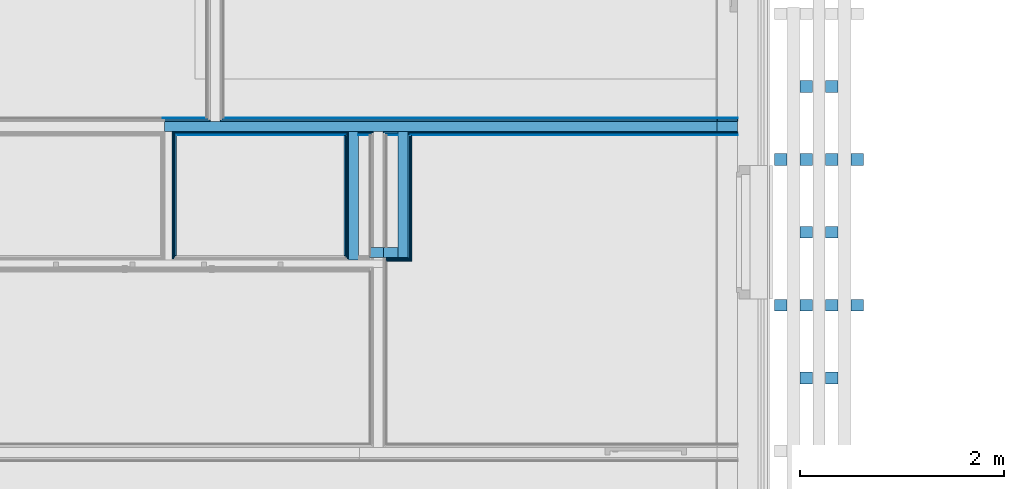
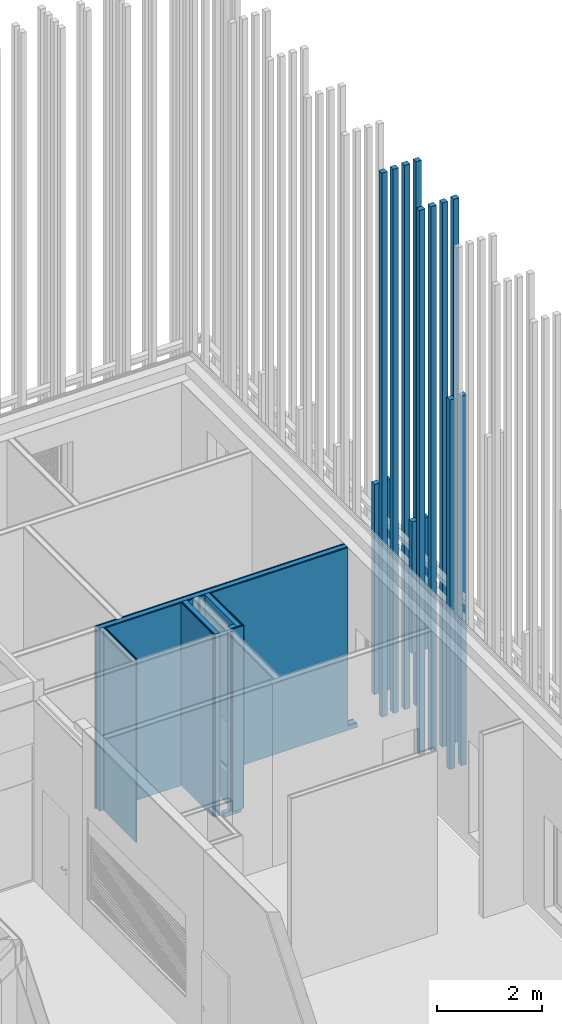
# One storey, part 192 of 260: 22 building element parts, 5 discrete accessories, 1 opening, 5 elements without a shape of their own.
"""IFC2X3 building model written with IfcOpenShell, lengths in millimetres."""

from ifc_helpers import new_model, entity, si_unit, converted_unit, derived_unit, money_unit, direction, frame, origin_with_axes, place, context, subcontext, project, spatial, faceted_brep, material, material_list, type_object, element, aggregate, save


model = new_model("IFC2X3")

# Units and contexts
model_context = context("Model", 3, precision=0.01, world=origin_with_axes(), true_north=direction((0.0, 1.0)))
body_context = subcontext(model_context, "Body", "Model", "MODEL_VIEW")
ifc_project = project(units=[si_unit("LENGTHUNIT", "METRE", prefix="MILLI"), si_unit("AREAUNIT", "SQUARE_METRE"), si_unit("VOLUMEUNIT", "CUBIC_METRE"), converted_unit("PLANEANGLEUNIT", "DEGREE", entity("IfcPlaneAngleMeasure", 0.0174532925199), si_unit("PLANEANGLEUNIT", "RADIAN"), dimensions=[0, 0, 0, 0, 0, 0, 0]), money_unit("EUR"), converted_unit("TIMEUNIT", "Year", entity("IfcTimeMeasure", 31556926.0), si_unit("TIMEUNIT", "SECOND"), dimensions=[0, 0, 1, 0, 0, 0, 0]), si_unit("MASSUNIT", "GRAM", prefix="KILO"), si_unit("THERMODYNAMICTEMPERATUREUNIT", "DEGREE_CELSIUS"), si_unit("LUMINOUSINTENSITYUNIT", "LUMEN"), si_unit("ENERGYUNIT", "JOULE", prefix="MEGA"), derived_unit("THERMALCONDUCTANCEUNIT", [(si_unit("POWERUNIT", "WATT"), 1), (si_unit("LENGTHUNIT", "METRE"), -1), (si_unit("THERMODYNAMICTEMPERATUREUNIT", "KELVIN"), -1)]), derived_unit("SPECIFICHEATCAPACITYUNIT", [(si_unit("ENERGYUNIT", "JOULE"), 1), (si_unit("MASSUNIT", "GRAM", prefix="KILO"), -1), (si_unit("THERMODYNAMICTEMPERATUREUNIT", "KELVIN"), -1)]), derived_unit("MASSDENSITYUNIT", [(si_unit("MASSUNIT", "GRAM", prefix="KILO"), 1), (si_unit("VOLUMEUNIT", "CUBIC_METRE"), -1)])], contexts=[model_context])

# Site, building, storey
site_placement = place(None, origin_with_axes())
site = spatial("IfcSite", under=ifc_project, at=site_placement, Name="Kolde pst 67a", CompositionType="ELEMENT")
building_placement = place(site_placement, origin_with_axes())
building = spatial("IfcBuilding", under=site, at=building_placement, Name="Riigigümnaasium", CompositionType="ELEMENT")
storey_placement = place(building_placement, origin_with_axes())
storey = spatial("IfcBuildingStorey", under=building, at=storey_placement, Name="1. korrus", CompositionType="ELEMENT", Elevation=0.0)

# Discrete accessories
ifc_material_1 = material(Name="_VÄLISVIIMISTLUS - sõrmjätkatud puitprussid 120x115mm, liitekohad vähemärgatavad, Platowood sõrmjätkatud kuusk või samaväärne; eeltöödeldud tuletõkkevõõbaga, tuletundlikkus B-s1, d0, Woodsafe Exterior WFX™ või samaväärne; kinnitused vastavalt EK osale")
ifc_material_list_1 = material_list([ifc_material_1, ifc_material_1, ifc_material_1, ifc_material_1])
discrete_accessory_type_1 = type_object("IfcDiscreteAccessoryType", Name="120 4-ne vertikaalne 870 x 115")
for number, where, z_axis, x_axis in (
    (1, (60791.9943499, 53667.4998416, 280.0), (0.0, 0.0, 1.0), (-0.999999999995, -3.13999128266e-06, 0.0)),
    (2, (60791.9943499, 52237.4998416, 280.0), (0.0, 0.0, 1.0), (-0.999999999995, -3.13999128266e-06, 0.0)),
):
    element("IfcDiscreteAccessory", number, at=place(storey_placement, frame(where, z_axis=z_axis, x_axis=x_axis)), inside=storey, type_object=discrete_accessory_type_1, material=ifc_material_list_1, Name="Päikesevarjestus", context=body_context, shape_type="Brep", body=[
        faceted_brep([(-133.0, -70.0, 0.0), (-13.0, -70.0, 0.0), (-13.0, -70.0, 12600.0), (-133.0, -70.0, 12600.0), (-133.0, 45.0, 0.0), (-13.0, 45.0, 0.0), (-13.0, 45.0, 12600.0), (-133.0, 45.0, 12600.0)], [[[0, 1, 2, 3]], [[0, 4, 5, 1]], [[1, 5, 6, 2]], [[3, 2, 6, 7]], [[4, 0, 3, 7]], [[5, 4, 7, 6]]]),
        faceted_brep([(-383.0, -70.0, 0.0), (-263.0, -70.0, 0.0), (-263.0, -70.0, 12600.0), (-383.0, -70.0, 12600.0), (-383.0, 45.0, 0.0), (-263.0, 45.0, 0.0), (-263.0, 45.0, 12600.0), (-383.0, 45.0, 12600.0)], [[[0, 1, 2, 3]], [[0, 4, 5, 1]], [[1, 5, 6, 2]], [[3, 2, 6, 7]], [[4, 0, 3, 7]], [[5, 4, 7, 6]]]),
        faceted_brep([(-633.0, -70.0, 0.0), (-513.0, -70.0, 0.0), (-513.0, -70.0, 12600.0), (-633.0, -70.0, 12600.0), (-633.0, 45.0, 0.0), (-513.0, 45.0, 0.0), (-513.0, 45.0, 12600.0), (-633.0, 45.0, 12600.0)], [[[0, 1, 2, 3]], [[0, 4, 5, 1]], [[1, 5, 6, 2]], [[3, 2, 6, 7]], [[4, 0, 3, 7]], [[5, 4, 7, 6]]]),
        faceted_brep([(-883.0, -70.0, 0.0), (-763.0, -70.0, 0.0), (-763.0, -70.0, 12600.0), (-883.0, -70.0, 12600.0), (-883.0, 45.0, 0.0), (-763.0, 45.0, 0.0), (-763.0, 45.0, 12600.0), (-883.0, 45.0, 12600.0)], [[[0, 1, 2, 3]], [[0, 4, 5, 1]], [[1, 5, 6, 2]], [[3, 2, 6, 7]], [[4, 0, 3, 7]], [[5, 4, 7, 6]]]),
    ])
ifc_material_list_2 = material_list([ifc_material_1, ifc_material_1])
discrete_accessory_type_2 = type_object("IfcDiscreteAccessoryType", Name="1+paiksekaitse 3 370 x 115")
discrete_accessory_1_placement = place(storey_placement, frame((61771.9937454, 51595.0013897, 280.0), z_axis=(0.0, 0.0, 1.0), x_axis=(-1.0, 0.0, 0.0)))
element("IfcDiscreteAccessory", 3, at=discrete_accessory_1_placement, inside=storey, type_object=discrete_accessory_type_2, material=ifc_material_list_2, Name="Päikesevarjestus", context=body_context, shape_type="Brep", body=[
    faceted_brep([(467.0, 117.5, 0.0), (347.0, 117.5, 0.0), (347.0, 117.5, 8560.0), (467.0, 117.5, 8560.0), (467.0, 2.5, 0.0), (347.0, 2.5, 0.0), (347.0, 2.5, 8560.0), (467.0, 2.5, 8560.0)], [[[0, 1, 2, 3]], [[0, 4, 5, 1]], [[1, 5, 6, 2]], [[3, 2, 6, 7]], [[4, 0, 3, 7]], [[5, 4, 7, 6]]]),
    faceted_brep([(717.0, 117.5, 0.0), (597.0, 117.5, 0.0), (597.0, 117.5, 8560.0), (717.0, 117.5, 8560.0), (717.0, 2.5, 0.0), (597.0, 2.5, 0.0), (597.0, 2.5, 8560.0), (717.0, 2.5, 8560.0)], [[[0, 1, 2, 3]], [[0, 4, 5, 1]], [[1, 5, 6, 2]], [[3, 2, 6, 7]], [[4, 0, 3, 7]], [[5, 4, 7, 6]]]),
])
discrete_accessory_2_placement = place(storey_placement, frame((61771.9937454, 53025.0013897, 2100.00014213), z_axis=(0.0, 0.0, 1.0), x_axis=(-1.0, 0.0, 0.0)))
element("IfcDiscreteAccessory", 4, at=discrete_accessory_2_placement, inside=storey, type_object=discrete_accessory_type_2, material=ifc_material_list_2, Name="Päikesevarjestus", context=body_context, shape_type="Brep", body=[
    faceted_brep([(467.0, 117.5, 0.0), (347.0, 117.5, 0.0), (347.0, 117.5, 3050.0), (467.0, 117.5, 3050.0), (467.0, 2.5, 0.0), (347.0, 2.5, 0.0), (347.0, 2.5, 3050.0), (467.0, 2.5, 3050.0)], [[[0, 1, 2, 3]], [[0, 4, 5, 1]], [[1, 5, 6, 2]], [[3, 2, 6, 7]], [[4, 0, 3, 7]], [[5, 4, 7, 6]]]),
    faceted_brep([(717.0, 117.5, 0.0), (597.0, 117.5, 0.0), (597.0, 117.5, 3050.0), (717.0, 117.5, 3050.0), (717.0, 2.5, 0.0), (597.0, 2.5, 0.0), (597.0, 2.5, 3050.0), (717.0, 2.5, 3050.0)], [[[0, 1, 2, 3]], [[0, 4, 5, 1]], [[1, 5, 6, 2]], [[3, 2, 6, 7]], [[4, 0, 3, 7]], [[5, 4, 7, 6]]]),
])
discrete_accessory_3_placement = place(storey_placement, frame((61771.9937454, 54455.0013897, 280.0), z_axis=(0.0, 0.0, 1.0), x_axis=(-1.0, 0.0, 0.0)))
element("IfcDiscreteAccessory", 5, at=discrete_accessory_3_placement, inside=storey, type_object=discrete_accessory_type_2, material=ifc_material_list_2, Name="Päikesevarjestus", context=body_context, shape_type="Brep", body=[
    faceted_brep([(467.0, 117.5, 0.0), (347.0, 117.5, 0.0), (347.0, 117.5, 4870.00014213), (467.0, 117.5, 4870.00014213), (467.0, 2.5, 0.0), (347.0, 2.5, 0.0), (347.0, 2.5, 4870.00014213), (467.0, 2.5, 4870.00014213)], [[[0, 1, 2, 3]], [[0, 4, 5, 1]], [[1, 5, 6, 2]], [[3, 2, 6, 7]], [[4, 0, 3, 7]], [[5, 4, 7, 6]]]),
    faceted_brep([(717.0, 117.5, 0.0), (597.0, 117.5, 0.0), (597.0, 117.5, 4870.00014213), (717.0, 117.5, 4870.00014213), (717.0, 2.5, 0.0), (597.0, 2.5, 0.0), (597.0, 2.5, 4870.00014213), (717.0, 2.5, 4870.00014213)], [[[0, 1, 2, 3]], [[0, 4, 5, 1]], [[1, 5, 6, 2]], [[3, 2, 6, 7]], [[4, 0, 3, 7]], [[5, 4, 7, 6]]]),
])

# Wall, building element parts
wall_type_1 = type_object("IfcWallType", Name="SS-MK-7,5/1_plaaditud 155", PredefinedType="NOTDEFINED")
wall_1_placement = place(storey_placement, frame((54779.9939316, 53918.5000583, 0.0), z_axis=(0.0, 0.0, 1.0), x_axis=(0.0, -1.0, 0.0)))
wall_1 = element("IfcWall", 6, at=wall_1_placement, inside=storey, type_object=wall_type_1, Name="Sisesein")
ifc_material_2 = material(Name="_VIIMISTLUSKIHT - viimistlus vastavalt SA osale")
building_element_part_1_placement = place(wall_1_placement, origin_with_axes())
building_element_part_1 = element("IfcBuildingElementPart", 7, at=building_element_part_1_placement, material=ifc_material_2, Name="_VIIMISTLUSKIHT - viimistlus vastavalt SA osale", context=body_context, shape_type="Brep", body=[
    faceted_brep([(1183.49987397, 140.000000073, 4230.0), (0.0, 140.000000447, 4230.0), (-5.0, 140.000000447, 4230.0), (-4.99999997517, 140.0, 0.0), (1183.49987397, 140.0, 0.0), (1183.49987397, 155.000000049, 4230.0), (0.0, 155.000000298, 4230.0), (-5.0, 155.000000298, 4230.0), (-4.99999997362, 155.0, 0.0), (1183.49987397, 155.0, 0.0)], [[[0, 1, 2, 3, 4]], [[5, 6, 7, 2, 1, 0]], [[3, 2, 7, 8]], [[4, 3, 8, 9]], [[5, 0, 4, 9]], [[6, 5, 9, 8, 7]]]),
])
ifc_material_3 = material(Name="_PLAATMATERJAL - kipsplaat veekindel")
building_element_part_2_placement = place(wall_1_placement, origin_with_axes())
building_element_part_2 = element("IfcBuildingElementPart", 8, at=building_element_part_2_placement, material=ifc_material_3, Name="_PLAATMATERJAL - kipsplaat veekindel", context=body_context, shape_type="Brep", body=[
    faceted_brep([(1198.49987397, 127.5, 4230.0), (0.0, 127.5, 4230.0), (-5.0, 127.5, 4230.0), (-4.99999997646, 127.5, 0.0), (1198.49987397, 127.5, 0.0), (1198.49987397, 140.000000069, 4230.0), (0.0, 140.000000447, 4230.0), (-5.0, 140.000000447, 4230.0), (-4.99999997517, 140.0, 0.0), (1198.49987397, 140.0, 0.0)], [[[0, 1, 2, 3, 4]], [[5, 6, 7, 2, 1, 0]], [[3, 2, 7, 8]], [[4, 3, 8, 9]], [[5, 0, 4, 9]], [[6, 5, 9, 8, 7]]]),
])
building_element_part_3_placement = place(wall_1_placement, origin_with_axes())
building_element_part_3 = element("IfcBuildingElementPart", 9, at=building_element_part_3_placement, material=ifc_material_3, Name="_PLAATMATERJAL - kipsplaat veekindel", context=body_context, shape_type="Brep", body=[
    faceted_brep([(1210.99987397, 115.000000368, 4230.0), (0.0, 115.000002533, 4230.0), (-5.0, 115.000002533, 4230.0), (-4.99999997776, 115.0, 0.0), (1210.99987397, 115.0, 0.0), (1210.99987397, 127.5, 4230.0), (0.0, 127.5, 4230.0), (-5.0, 127.5, 4230.0), (-4.99999997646, 127.5, 0.0), (1210.99987397, 127.5, 0.0)], [[[0, 1, 2, 3, 4]], [[5, 6, 7, 2, 1, 0]], [[3, 2, 7, 8]], [[4, 3, 8, 9]], [[5, 0, 4, 9]], [[6, 5, 9, 8, 7]]]),
])
aggregate(wall_1, [building_element_part_1, building_element_part_2, building_element_part_3])

wall_type_2 = type_object("IfcWallType", Name="SS-MK-10/2_šahti sein+plaat 140", PredefinedType="NOTDEFINED")
wall_2_placement = place(storey_placement, frame((56581.4435911, 52735.0001843, 0.0), z_axis=(0.0, 0.0, 1.0), x_axis=(0.0, 1.0, 0.0)))
wall_2 = element("IfcWall", 10, at=wall_2_placement, inside=storey, type_object=wall_type_2, Name="Varisein")
building_element_part_4_placement = place(wall_2_placement, origin_with_axes())
building_element_part_4 = element("IfcBuildingElementPart", 11, at=building_element_part_4_placement, material=ifc_material_2, Name="_VIIMISTLUSKIHT - viimistlus vastavalt SA osale", context=body_context, shape_type="Brep", body=[
    faceted_brep([(1183.49987397, 4.47037962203e-07, 4230.0), (1183.49987397, -14.9999994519, 4230.0), (1183.49987397, -15.0, 0.0), (1183.49987397, 0.0, 0.0), (0.0, -14.9999999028, 4230.0), (0.0, 7.28732629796e-08, 4230.0), (0.0, -15.0, 0.0), (0.0, 0.0, 0.0)], [[[0, 1, 2, 3]], [[4, 1, 0, 5]], [[1, 4, 6, 2]], [[7, 3, 2, 6]], [[5, 0, 3, 7]], [[4, 5, 7, 6]]]),
])
building_element_part_5_placement = place(wall_2_placement, origin_with_axes())
building_element_part_5 = element("IfcBuildingElementPart", 12, at=building_element_part_5_placement, material=ifc_material_3, Name="_PLAATMATERJAL - kipsplaat veekindel", context=body_context, shape_type="Brep", body=[
    faceted_brep([(-15.0, -14.9999999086, 4230.0), (1183.49987397, -14.999999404, 4230.0), (1188.49987397, -14.999999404, 4230.0), (1188.49987377, -15.0, 0.0), (-15.0, -15.0, 0.0), (-15.0, -27.5, 4230.0), (1183.49987397, -27.5, 4230.0), (1188.49987397, -27.5, 4230.0), (1188.49987377, -27.5, 0.0), (-15.0, -27.5, 0.0)], [[[0, 1, 2, 3, 4]], [[5, 6, 7, 2, 1, 0]], [[3, 2, 7, 8]], [[4, 3, 8, 9]], [[5, 0, 4, 9]], [[6, 5, 9, 8, 7]]]),
])
building_element_part_6_placement = place(wall_2_placement, origin_with_axes())
building_element_part_6 = element("IfcBuildingElementPart", 13, at=building_element_part_6_placement, material=ifc_material_3, Name="_PLAATMATERJAL - kipsplaat veekindel", context=body_context, shape_type="Brep", body=[
    faceted_brep([(-27.5, -27.5, 4230.0), (1183.49987397, -27.5, 4230.0), (1188.49987397, -27.5, 4230.0), (1188.49987377, -27.5, 0.0), (-27.5, -27.5, 0.0), (-27.5, -39.9999996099, 4230.0), (1183.49987397, -39.9999973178, 4230.0), (1188.49987397, -39.9999973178, 4230.0), (1188.49987377, -40.0, 0.0), (-27.5, -40.0, 0.0)], [[[0, 1, 2, 3, 4]], [[5, 6, 7, 2, 1, 0]], [[3, 2, 7, 8]], [[4, 3, 8, 9]], [[5, 0, 4, 9]], [[6, 5, 9, 8, 7]]]),
])
ifc_material_4 = material(Name="_KARKASS - metallkarkass CW 100/50/06 ja UW 100/40/06, samm 600, vahel mineraalvill, helineeldetegur αw = 1.0,  ISOVER ACOUSTIC 100mm või samaväärne")
building_element_part_7_placement = place(wall_2_placement, origin_with_axes())
building_element_part_7 = element("IfcBuildingElementPart", 14, at=building_element_part_7_placement, material=ifc_material_4, Name="_KARKASS - metallkarkass CW 100/50/06 ja UW 100/40/06, samm 600, vahel mineraalvill, helineeldetegur αw = 1.0,  ISOVER ACOUSTIC 100mm või samaväärne", context=body_context, shape_type="Brep", body=[
    faceted_brep([(-40.0, -39.9999996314, 4230.0), (1183.49987397, -39.9999973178, 4230.0), (1218.49987397, -39.9999973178, 4230.0), (1218.49987427, -40.0, 0.0), (-40.0, -40.0, 0.0), (-40.0, -140.0, 4230.0), (1183.49987397, -140.0, 4230.0), (1218.49987397, -140.0, 4230.0), (1218.49987429, -140.0, 0.0), (-40.0, -140.0, 0.0)], [[[0, 1, 2, 3, 4]], [[5, 6, 7, 2, 1, 0]], [[3, 2, 7, 8]], [[4, 3, 8, 9]], [[5, 0, 4, 9]], [[6, 5, 9, 8, 7]]]),
])
aggregate(wall_2, [building_element_part_4, building_element_part_5, building_element_part_6, building_element_part_7])

wall_type_3 = type_object("IfcWallType", Name="SS-PK-10/9_vill100+2värv 170", PredefinedType="NOTDEFINED")
wall_3_placement = place(storey_placement, frame((54779.9939316, 53918.5000583, 0.0), z_axis=(0.0, 0.0, 1.0), x_axis=(1.0, 0.0, 0.0)))
wall_3 = element("IfcWall", 15, at=wall_3_placement, inside=storey, type_object=wall_type_3, Name="Sisesein")
building_element_part_8_placement = place(wall_3_placement, origin_with_axes())
building_element_part_8 = element("IfcBuildingElementPart", 16, at=building_element_part_8_placement, material=ifc_material_2, Name="_VIIMISTLUSKIHT - viimistlus vastavalt SA osale", context=body_context, shape_type="Brep", body=[
    faceted_brep([(5450.00019059, 170.0, 4230.0), (5450.00019059, 170.0, 100.0), (5660.00019059, 170.0, 100.0), (5660.00019059, 170.0, 0.0), (615.000190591, 170.0, 0.0), (615.000190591, 170.0, 4230.0), (5450.00019059, 165.0, 4230.0), (5450.00019059, 165.000000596, 100.0), (5660.00019059, 165.000000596, 100.0), (5660.00019059, 165.000000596, 0.0), (615.000190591, 165.000000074, 0.0), (615.000190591, 165.0, 4230.0)], [[[0, 1, 2, 3, 4, 5]], [[1, 0, 6, 7]], [[2, 1, 7, 8]], [[2, 8, 9, 3]], [[4, 3, 9, 10]], [[5, 4, 10, 11]], [[6, 0, 5, 11]], [[7, 6, 11, 10, 9, 8]]]),
    faceted_brep([(455.000190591, 170.0, 0.0), (0.0, 170.0, 0.0), (0.0, 170.0, 4230.0), (455.000190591, 170.0, 4230.0), (455.000190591, 165.000000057, 0.0), (0.0, 165.00000001, 0.0), (0.0, 165.0, 4230.0), (455.000190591, 165.0, 4230.0)], [[[0, 1, 2, 3]], [[4, 5, 1, 0]], [[1, 5, 6, 2]], [[3, 2, 6, 7]], [[0, 3, 7, 4]], [[7, 6, 5, 4]]]),
])
ifc_material_5 = material(Name="_PLAATMATERJAL - tuletõkkekipsplaat, Knauf Red GKF või samaväärne")
building_element_part_9_placement = place(wall_3_placement, origin_with_axes())
building_element_part_9 = element("IfcBuildingElementPart", 17, at=building_element_part_9_placement, material=ifc_material_5, Name="_PLAATMATERJAL - tuletõkkekipsplaat, Knauf Red GKF või samaväärne", context=body_context, shape_type="Brep", body=[
    faceted_brep([(5460.00019059, 165.0, 4230.0), (5460.00019059, 165.000000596, 100.0), (5660.00019059, 165.000000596, 100.0), (5660.00019059, 165.000000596, 0.0), (600.000190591, 165.000000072, 0.0), (600.000190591, 165.0, 4230.0), (5460.00019059, 150.0, 4230.0), (5460.00019059, 149.999999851, 100.0), (5660.00019059, 149.999999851, 100.0), (5660.00019059, 149.999999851, 0.0), (600.000190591, 149.999999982, 0.0), (600.000190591, 150.0, 4230.0)], [[[0, 1, 2, 3, 4, 5]], [[1, 0, 6, 7]], [[8, 2, 1, 7]], [[2, 8, 9, 3]], [[4, 3, 9, 10]], [[5, 4, 10, 11]], [[6, 0, 5, 11]], [[7, 6, 11, 10, 9, 8]]]),
    faceted_brep([(470.000190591, 165.000000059, 0.0), (0.0, 165.00000001, 0.0), (0.0, 165.0, 4230.0), (470.000190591, 165.0, 4230.0), (470.000190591, 149.999999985, 0.0), (0.0, 149.999999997, 0.0), (0.0, 150.0, 4230.0), (470.000190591, 150.0, 4230.0)], [[[0, 1, 2, 3]], [[4, 5, 1, 0]], [[1, 5, 6, 2]], [[3, 2, 6, 7]], [[0, 3, 7, 4]], [[7, 6, 5, 4]]]),
])
ifc_material_6 = material(Name="_PLAATMATERJAL - OSB3 plaat")
building_element_part_10_placement = place(wall_3_placement, origin_with_axes())
building_element_part_10 = element("IfcBuildingElementPart", 18, at=building_element_part_10_placement, material=ifc_material_6, Name="_PLAATMATERJAL - OSB3 plaat", context=body_context, shape_type="Brep", body=[
    faceted_brep([(5460.00019059, 150.0, 4230.0), (5460.00019059, 149.999999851, 100.0), (5660.00019059, 149.999999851, 100.0), (5660.00019059, 149.999999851, 0.0), (585.000190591, 149.999999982, 0.0), (585.000190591, 150.0, 4230.0), (5460.00019059, 135.0, 4230.0), (5460.00019059, 134.999999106, 100.0), (5660.00019059, 134.999999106, 100.0), (5660.00019059, 134.999999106, 0.0), (585.000190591, 134.999999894, 0.0), (585.000190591, 135.0, 4230.0)], [[[0, 1, 2, 3, 4, 5]], [[1, 0, 6, 7]], [[8, 2, 1, 7]], [[2, 8, 9, 3]], [[4, 3, 9, 10]], [[5, 4, 10, 11]], [[6, 0, 5, 11]], [[7, 6, 11, 10, 9, 8]]]),
    faceted_brep([(485.000190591, 149.999999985, 0.0), (27.5, 149.999999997, 0.0), (27.5, 150.0, 4230.0), (485.000190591, 150.0, 4230.0), (485.000190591, 134.999999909, 0.0), (27.5, 134.99999998, 0.0), (27.5, 135.0, 4230.0), (485.000190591, 135.0, 4230.0)], [[[0, 1, 2, 3]], [[4, 5, 1, 0]], [[1, 5, 6, 2]], [[3, 2, 6, 7]], [[0, 3, 7, 4]], [[7, 6, 5, 4]]]),
])
ifc_material_7 = material(Name="_KARKASS - puitpruss 100x50mm vertikaalne, samm 600mm, vahel mineraalvill, helineeldetegur αw = 1.0, ISOVER ACOUSTIC 100mm või samaväärne")
building_element_part_11_placement = place(wall_3_placement, origin_with_axes())
building_element_part_11 = element("IfcBuildingElementPart", 19, at=building_element_part_11_placement, material=ifc_material_7, Name="_KARKASS - puitpruss 100x50mm vertikaalne, samm 600mm, vahel mineraalvill, helineeldetegur αw = 1.0, ISOVER ACOUSTIC 100mm või samaväärne", context=body_context, shape_type="Brep", body=[
    faceted_brep([(5460.00019059, 135.0, 4230.0), (5460.00019059, 134.999999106, 100.0), (5660.00019059, 134.999999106, 100.0), (5660.00019059, 134.999999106, 0.0), (40.0, 134.999999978, 0.0), (40.0, 135.0, 4230.0), (5460.00019059, 35.0, 4230.0), (5460.00019059, 35.0000008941, 100.0), (5660.00019059, 35.0000008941, 100.0), (5660.00019059, 35.0000008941, 0.0), (40.0, 35.0000000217, 0.0), (40.0, 35.0, 4230.0)], [[[0, 1, 2, 3, 4, 5]], [[1, 0, 6, 7]], [[8, 2, 1, 7]], [[2, 8, 9, 3]], [[4, 3, 9, 10]], [[5, 4, 10, 11]], [[6, 0, 5, 11]], [[7, 6, 11, 10, 9, 8]]]),
])
building_element_part_12_placement = place(wall_3_placement, origin_with_axes())
building_element_part_12 = element("IfcBuildingElementPart", 20, at=building_element_part_12_placement, material=ifc_material_6, Name="_PLAATMATERJAL - OSB3 plaat", context=body_context, shape_type="Brep", body=[
    faceted_brep([(2327.50017939, 20.0, 4230.0), (2327.50017939, 35.0, 4230.0), (2185.00017939, 35.0, 4230.0), (2185.00017939, 20.0, 4230.0), (2327.50017939, 35.0000003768, 0.0), (2327.50017939, 20.0000000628, 0.0), (2185.00017939, 35.0000003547, 0.0), (2185.00017939, 20.0000000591, 0.0)], [[[0, 1, 2, 3]], [[4, 1, 0, 5]], [[1, 4, 6, 2]], [[2, 6, 7, 3]], [[5, 0, 3, 7]], [[4, 5, 7, 6]]]),
    faceted_brep([(2427.50017939, 35.0000003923, 0.0), (2427.50017939, 35.0, 4230.0), (5460.00019059, 35.0, 4230.0), (5460.00019059, 35.0000008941, 100.0), (5660.00019059, 35.0000008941, 100.0), (5660.00019059, 35.0000008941, 0.0), (2427.50017939, 20.0, 4230.0), (2427.50017939, 20.0000000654, 0.0), (5460.00019059, 20.0, 4230.0), (5460.00019059, 20.000000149, 100.0), (5660.00019059, 20.000000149, 100.0), (5660.00019059, 20.000000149, 0.0)], [[[0, 1, 2, 3, 4, 5]], [[6, 1, 0, 7]], [[1, 6, 8, 2]], [[3, 2, 8, 9]], [[10, 4, 3, 9]], [[4, 10, 11, 5]], [[7, 0, 5, 11]], [[6, 7, 11, 10, 9, 8]]]),
    faceted_brep([(1841.44965953, 35.0000003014, 0.0), (115.0, 35.0000000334, 0.0), (115.0, 35.0, 4230.0), (1841.44965953, 35.0, 4230.0), (1841.44965953, 20.0000000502, 0.0), (115.0, 20.0000000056, 0.0), (115.0, 20.0, 4230.0), (1841.44965953, 20.0, 4230.0)], [[[0, 1, 2, 3]], [[4, 5, 1, 0]], [[1, 5, 6, 2]], [[3, 2, 6, 7]], [[0, 3, 7, 4]], [[7, 6, 5, 4]]]),
    faceted_brep([(2085.00017939, 35.0000003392, 0.0), (1941.44965953, 35.0000003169, 0.0), (1941.44965953, 35.0, 4230.0), (2085.00017939, 35.0, 4230.0), (2085.00017939, 20.0000000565, 0.0), (1941.44965953, 20.0000000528, 0.0), (1941.44965953, 20.0, 4230.0), (2085.00017939, 20.0, 4230.0)], [[[0, 1, 2, 3]], [[4, 5, 1, 0]], [[1, 5, 6, 2]], [[3, 2, 6, 7]], [[0, 3, 7, 4]], [[7, 6, 5, 4]]]),
])
building_element_part_13_placement = place(wall_3_placement, origin_with_axes())
building_element_part_13 = element("IfcBuildingElementPart", 21, at=building_element_part_13_placement, material=ifc_material_5, Name="_PLAATMATERJAL - tuletõkkekipsplaat, Knauf Red GKF või samaväärne", context=body_context, shape_type="Brep", body=[
    faceted_brep([(2327.50017939, 5.0, 4230.0), (2327.50017939, 20.0, 4230.0), (2200.00017939, 20.0, 4230.0), (2200.00017939, 5.0, 4230.0), (2327.50017939, 20.0000000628, 0.0), (2327.50017939, 4.9999997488, 0.0), (2200.00017939, 20.0000000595, 0.0), (2200.00017939, 4.999999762, 0.0)], [[[0, 1, 2, 3]], [[4, 1, 0, 5]], [[1, 4, 6, 2]], [[2, 6, 7, 3]], [[5, 0, 3, 7]], [[4, 5, 7, 6]]]),
    faceted_brep([(2427.50017939, 20.0000000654, 0.0), (2427.50017939, 20.0, 4230.0), (5460.00019059, 20.0, 4230.0), (5460.00019059, 20.000000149, 100.0), (5660.00019059, 20.000000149, 100.0), (5660.00019059, 20.000000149, 0.0), (2427.50017939, 5.0, 4230.0), (2427.50017939, 4.99999973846, 0.0), (5460.00019059, 5.0, 4230.0), (5460.00019059, 4.99999940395, 100.0), (5660.00019059, 4.99999940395, 100.0), (5660.00019059, 4.99999940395, 0.0)], [[[0, 1, 2, 3, 4, 5]], [[6, 1, 0, 7]], [[1, 6, 8, 2]], [[3, 2, 8, 9]], [[10, 4, 3, 9]], [[4, 10, 11, 5]], [[7, 0, 5, 11]], [[6, 7, 11, 10, 9, 8]]]),
    faceted_brep([(1841.44965953, 20.0000000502, 0.0), (115.0, 20.0000000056, 0.0), (115.0, 20.0, 4230.0), (1841.44965953, 20.0, 4230.0), (1841.44965953, 4.9999997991, 0.0), (115.0, 4.99999997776, 0.0), (115.0, 5.0, 4230.0), (1841.44965953, 5.0, 4230.0)], [[[0, 1, 2, 3]], [[4, 5, 1, 0]], [[1, 5, 6, 2]], [[3, 2, 6, 7]], [[0, 3, 7, 4]], [[7, 6, 5, 4]]]),
    faceted_brep([(2070.00017939, 20.0000000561, 0.0), (1941.44965953, 20.0000000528, 0.0), (1941.44965953, 20.0, 4230.0), (2070.00017939, 20.0, 4230.0), (2070.00017939, 4.99999977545, 0.0), (1941.44965953, 4.99999978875, 0.0), (1941.44965953, 5.0, 4230.0), (2070.00017939, 5.0, 4230.0)], [[[0, 1, 2, 3]], [[4, 5, 1, 0]], [[1, 5, 6, 2]], [[3, 2, 6, 7]], [[0, 3, 7, 4]], [[7, 6, 5, 4]]]),
])
building_element_part_14_placement = place(wall_3_placement, origin_with_axes())
building_element_part_14 = element("IfcBuildingElementPart", 22, at=building_element_part_14_placement, material=ifc_material_2, Name="_VIIMISTLUSKIHT - viimistlus vastavalt SA osale", context=body_context, shape_type="Brep", body=[
    faceted_brep([(2327.50017939, 0.0, 4230.0), (2327.50017939, 5.0, 4230.0), (2215.00017939, 5.0, 4230.0), (2215.00017939, 0.0, 4230.0), (2327.50017939, 4.9999997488, 0.0), (2327.50017939, 0.0, 0.0), (2215.00017939, 4.99999976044, 0.0), (2215.00017939, 0.0, 0.0)], [[[0, 1, 2, 3]], [[4, 1, 0, 5]], [[1, 4, 6, 2]], [[2, 6, 7, 3]], [[5, 0, 3, 7]], [[4, 5, 7, 6]]]),
    faceted_brep([(2452.50017939, 4.99999973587, 0.0), (2452.50017939, 5.0, 4230.0), (5450.00019059, 5.0, 4230.0), (5450.00019059, 4.99999940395, 100.0), (5660.00019059, 4.99999940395, 100.0), (5660.00019059, 4.99999940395, 0.0), (2452.50017939, 0.0, 4230.0), (2452.50017939, 0.0, 0.0), (5450.00019059, 0.0, 4230.0), (5450.00019059, 0.0, 100.0), (5660.00019059, 0.0, 100.0), (5660.00019059, 0.0, 0.0)], [[[0, 1, 2, 3, 4, 5]], [[6, 1, 0, 7]], [[1, 6, 8, 2]], [[3, 2, 8, 9]], [[4, 3, 9, 10]], [[4, 10, 11, 5]], [[7, 0, 5, 11]], [[6, 7, 11, 10, 9, 8]]]),
    faceted_brep([(1816.44965953, 4.99999980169, 0.0), (155.0, 4.99999997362, 0.0), (155.0, 5.0, 4230.0), (1816.44965953, 5.0, 4230.0), (1816.44965953, 0.0, 0.0), (155.0, 0.0, 0.0), (155.0, 0.0, 4230.0), (1816.44965953, 0.0, 4230.0)], [[[0, 1, 2, 3]], [[4, 5, 1, 0]], [[1, 5, 6, 2]], [[3, 2, 6, 7]], [[0, 3, 7, 4]], [[7, 6, 5, 4]]]),
    faceted_brep([(2055.00017939, 4.999999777, 0.0), (1941.44965953, 4.99999978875, 0.0), (1941.44965953, 5.0, 4230.0), (2055.00017939, 5.0, 4230.0), (2055.00017939, 0.0, 0.0), (1941.44965953, 0.0, 0.0), (1941.44965953, 0.0, 4230.0), (2055.00017939, 0.0, 4230.0)], [[[0, 1, 2, 3]], [[4, 5, 1, 0]], [[1, 5, 6, 2]], [[3, 2, 6, 7]], [[0, 3, 7, 4]], [[7, 6, 5, 4]]]),
])
aggregate(wall_3, [building_element_part_8, building_element_part_9, building_element_part_10, building_element_part_11, building_element_part_12, building_element_part_13, building_element_part_14])

# Wall, opening, building element parts
wall_type_4 = type_object("IfcWallType", Name="SS-MK-10/6_šahti sein+krohv 40 dB 135", PredefinedType="NOTDEFINED")
wall_4_placement = place(storey_placement, frame((57242.494111, 53918.5000583, -150.0), z_axis=(0.0, 0.0, 1.0), x_axis=(0.0, -1.0, 0.0)))
wall_4 = element("IfcWall", 23, at=wall_4_placement, inside=storey, type_object=wall_type_4, Name="Varisein")
opening_placement = place(wall_4_placement, frame((53918.5000583, -57242.494111, 150.0), z_axis=(0.0, 0.0, 1.0), x_axis=(0.0, 1.0, 0.0)))
element("IfcOpeningElement", 24, at=opening_placement, cuts=wall_4, Name="Tulekustuti nišš vastavalt SA osale", ObjectType="OPENING", context=body_context, shape_type="Brep", body=[
    faceted_brep([(57107.494111, 53816.2590011, 595.0), (57107.494111, 53816.2590011, 1795.0), (57247.494111, 53816.2590011, 1795.0), (57247.494111, 53816.2590011, 595.0), (57107.494111, 52816.2590011, 595.0), (57107.494111, 52816.2590011, 1795.0), (57247.494111, 52816.2590011, 1795.0), (57247.494111, 52816.2590011, 595.0)], [[[0, 1, 2, 3]], [[0, 4, 5, 1]], [[1, 5, 6, 2]], [[3, 2, 6, 7]], [[4, 0, 3, 7]], [[5, 4, 7, 6]]]),
])
building_element_part_15_placement = place(wall_4_placement, origin_with_axes())
building_element_part_15 = element("IfcBuildingElementPart", 25, at=building_element_part_15_placement, material=ifc_material_2, Name="_VIIMISTLUSKIHT - viimistlus vastavalt SA osale", context=body_context, shape_type="Brep", body=[
    faceted_brep([(1237.24105721, 0.0, 150.0), (0.0, 0.0, 150.0), (0.0, 0.0, 4380.0), (1237.24105721, 0.0, 4380.0), (102.241057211, 0.0, 1945.0), (102.241057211, 0.0, 745.0), (1102.24105721, 0.0, 745.0), (1102.24105721, 0.0, 1945.0), (0.0, -10.0, 150.0), (1237.24105721, -10.0, 150.0), (0.0, -10.0, 4380.0), (1237.24105721, -10.0, 4380.0), (102.241057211, -10.0, 1945.0), (102.241057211, -10.0, 745.0), (1102.24105721, -10.0, 745.0), (1102.24105721, -10.0, 1945.0)], [[[0, 1, 2, 3], [4, 5, 6, 7]], [[8, 1, 0, 9]], [[1, 8, 10, 2]], [[3, 2, 10, 11]], [[9, 0, 3, 11]], [[12, 13, 5, 4]], [[13, 14, 6, 5]], [[14, 15, 7, 6]], [[15, 12, 4, 7]], [[8, 9, 11, 10], [12, 15, 14, 13]]]),
])
building_element_part_16_placement = place(wall_4_placement, origin_with_axes())
building_element_part_16 = element("IfcBuildingElementPart", 26, at=building_element_part_16_placement, material=ifc_material_3, Name="_PLAATMATERJAL - kipsplaat veekindel", context=body_context, shape_type="Brep", body=[
    faceted_brep([(1227.24105721, -10.0, 150.0), (0.0, -10.0, 150.0), (-4.99999973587, -10.0, 150.0), (-5.0, -10.0, 4380.0), (1227.24105721, -10.0, 4380.0), (102.241057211, -10.0, 1945.0), (102.241057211, -10.0, 745.0), (1102.24105721, -10.0, 745.0), (1102.24105721, -10.0, 1945.0), (0.0, -22.5, 150.0), (1227.24105721, -22.5, 150.0), (-4.99999973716, -22.5, 150.0), (-5.0, -22.5, 4380.0), (1227.24105721, -22.5, 4380.0), (102.241057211, -22.5, 1945.0), (102.241057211, -22.5, 745.0), (1102.24105721, -22.5, 745.0), (1102.24105721, -22.5, 1945.0)], [[[0, 1, 2, 3, 4], [5, 6, 7, 8]], [[9, 1, 0, 10]], [[1, 9, 11, 2]], [[11, 12, 3, 2]], [[4, 3, 12, 13]], [[10, 0, 4, 13]], [[14, 15, 6, 5]], [[15, 16, 7, 6]], [[16, 17, 8, 7]], [[17, 14, 5, 8]], [[9, 10, 13, 12, 11], [14, 17, 16, 15]]]),
])
building_element_part_17_placement = place(wall_4_placement, origin_with_axes())
building_element_part_17 = element("IfcBuildingElementPart", 27, at=building_element_part_17_placement, material=ifc_material_3, Name="_PLAATMATERJAL - kipsplaat veekindel", context=body_context, shape_type="Brep", body=[
    faceted_brep([(1214.74105721, -22.5, 150.0), (0.0, -22.5, 150.0), (-4.99999973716, -22.5, 150.0), (-5.0, -22.5, 4380.0), (1214.74105721, -22.5, 4380.0), (102.241057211, -22.5, 1945.0), (102.241057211, -22.5, 745.0), (1102.24105721, -22.5, 745.0), (1102.24105721, -22.5, 1945.0), (0.0, -35.0, 150.0), (1214.74105721, -35.0, 150.0), (-4.99999973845, -35.0, 150.0), (-5.0, -35.0, 4380.0), (1214.74105721, -35.0, 4380.0), (102.241057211, -35.0, 1945.0), (102.241057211, -35.0, 745.0), (1102.24105721, -35.0, 745.0), (1102.24105721, -35.0, 1945.0)], [[[0, 1, 2, 3, 4], [5, 6, 7, 8]], [[9, 1, 0, 10]], [[1, 9, 11, 2]], [[11, 12, 3, 2]], [[4, 3, 12, 13]], [[10, 0, 4, 13]], [[14, 15, 6, 5]], [[15, 16, 7, 6]], [[16, 17, 8, 7]], [[17, 14, 5, 8]], [[9, 10, 13, 12, 11], [14, 17, 16, 15]]]),
])
building_element_part_18_placement = place(wall_4_placement, origin_with_axes())
building_element_part_18 = element("IfcBuildingElementPart", 28, at=building_element_part_18_placement, material=ifc_material_4, Name="_KARKASS - metallkarkass CW 100/50/06 ja UW 100/40/06, samm 600, vahel mineraalvill, helineeldetegur αw = 1.0,  ISOVER ACOUSTIC 100mm või samaväärne", context=body_context, shape_type="Brep", body=[
    faceted_brep([(1202.24105721, -35.0, 49.9), (0.0, -35.0, 49.9), (0.0, -35.0, 150.0), (-35.0000003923, -35.0, 150.0), (-35.0, -35.0, 4380.0), (1202.24105721, -35.0, 4380.0), (102.241057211, -35.0, 1945.0), (102.241057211, -35.0, 745.0), (1102.24105721, -35.0, 745.0), (1102.24105721, -35.0, 1945.0), (0.0, -135.0, 49.9), (1202.24105721, -135.0, 49.9), (0.0, -135.0, 150.0), (-35.0000003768, -135.0, 150.0), (-35.0, -135.0, 4380.0), (1202.24105721, -135.0, 4380.0), (102.241057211, -135.0, 1945.0), (102.241057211, -135.0, 745.0), (1102.24105721, -135.0, 745.0), (1102.24105721, -135.0, 1945.0)], [[[0, 1, 2, 3, 4, 5], [6, 7, 8, 9]], [[10, 1, 0, 11]], [[1, 10, 12, 2]], [[12, 13, 3, 2]], [[13, 14, 4, 3]], [[5, 4, 14, 15]], [[11, 0, 5, 15]], [[16, 17, 7, 6]], [[17, 18, 8, 7]], [[18, 19, 9, 8]], [[19, 16, 6, 9]], [[10, 11, 15, 14, 13, 12], [16, 19, 18, 17]]]),
])
aggregate(wall_4, [building_element_part_15, building_element_part_16, building_element_part_17, building_element_part_18])

# Wall, building element parts
wall_5_placement = place(storey_placement, frame((57242.494111, 52681.2590011, -150.0), z_axis=(0.0, 0.0, 1.0), x_axis=(-1.0, 0.0, 0.0)))
wall_5 = element("IfcWall", 29, at=wall_5_placement, inside=storey, type_object=wall_type_4, Name="Varisein")
building_element_part_19_placement = place(wall_5_placement, origin_with_axes())
building_element_part_19 = element("IfcBuildingElementPart", 30, at=building_element_part_19_placement, material=ifc_material_2, Name="_VIIMISTLUSKIHT - viimistlus vastavalt SA osale", context=body_context, shape_type="Brep", body=[
    faceted_brep([(10.0, 0.0, 150.0), (10.0, -10.0, 150.0), (10.0, -10.0, 4380.0), (10.0, 0.0, 4380.0), (242.5, -10.0, 150.0), (242.5, 0.0, 150.0), (242.5, -10.0, 4380.00000998), (242.5, 0.0, 4380.00000998)], [[[0, 1, 2, 3]], [[4, 1, 0, 5]], [[1, 4, 6, 2]], [[7, 3, 2, 6]], [[5, 0, 3, 7]], [[4, 5, 7, 6]]]),
])
building_element_part_20_placement = place(wall_5_placement, origin_with_axes())
building_element_part_20 = element("IfcBuildingElementPart", 31, at=building_element_part_20_placement, material=ifc_material_3, Name="_PLAATMATERJAL - kipsplaat veekindel", context=body_context, shape_type="Brep", body=[
    faceted_brep([(22.5, -10.0, 150.0), (22.5, -22.5, 150.0), (22.5, -22.5, 4380.0), (22.5, -10.0, 4380.0), (247.5, -22.5, 150.0), (247.5, -10.0, 150.0), (247.5, -22.5, 4380.00000998), (247.5, -10.0, 4380.00000998)], [[[0, 1, 2, 3]], [[4, 1, 0, 5]], [[1, 4, 6, 2]], [[7, 3, 2, 6]], [[5, 0, 3, 7]], [[4, 5, 7, 6]]]),
])
building_element_part_21_placement = place(wall_5_placement, origin_with_axes())
building_element_part_21 = element("IfcBuildingElementPart", 32, at=building_element_part_21_placement, material=ifc_material_3, Name="_PLAATMATERJAL - kipsplaat veekindel", context=body_context, shape_type="Brep", body=[
    faceted_brep([(35.0, -22.5, 150.0), (35.0, -35.0, 150.0), (35.0, -35.0, 4380.0), (35.0, -22.5, 4380.0), (247.5, -35.0, 150.0), (247.5, -22.5, 150.0), (247.5, -35.0, 4380.00000998), (247.5, -22.5, 4380.00000998)], [[[0, 1, 2, 3]], [[4, 1, 0, 5]], [[1, 4, 6, 2]], [[7, 3, 2, 6]], [[5, 0, 3, 7]], [[4, 5, 7, 6]]]),
])
building_element_part_22_placement = place(wall_5_placement, origin_with_axes())
building_element_part_22 = element("IfcBuildingElementPart", 33, at=building_element_part_22_placement, material=ifc_material_4, Name="_KARKASS - metallkarkass CW 100/50/06 ja UW 100/40/06, samm 600, vahel mineraalvill, helineeldetegur αw = 1.0,  ISOVER ACOUSTIC 100mm või samaväärne", context=body_context, shape_type="Brep", body=[
    faceted_brep([(135.0, -35.0, 49.9), (135.0, -135.0, 49.9), (135.0, -135.0, 4380.0), (135.0, -35.0, 4380.0), (412.5, -135.0, 49.9), (412.5, -35.0, 49.9), (412.5, -135.0, 150.0), (277.5, -135.0, 150.0), (277.5, -135.0, 4380.00000998), (277.5, -35.0, 4380.00000998), (277.5, -35.0, 150.0), (412.5, -35.0, 150.0)], [[[0, 1, 2, 3]], [[4, 1, 0, 5]], [[1, 4, 6, 7, 8, 2]], [[9, 3, 2, 8]], [[5, 0, 3, 9, 10, 11]], [[4, 5, 11, 6]], [[11, 10, 7, 6]], [[10, 9, 8, 7]]]),
])
aggregate(wall_5, [building_element_part_19, building_element_part_20, building_element_part_21, building_element_part_22])

save(model, "model.ifc")
